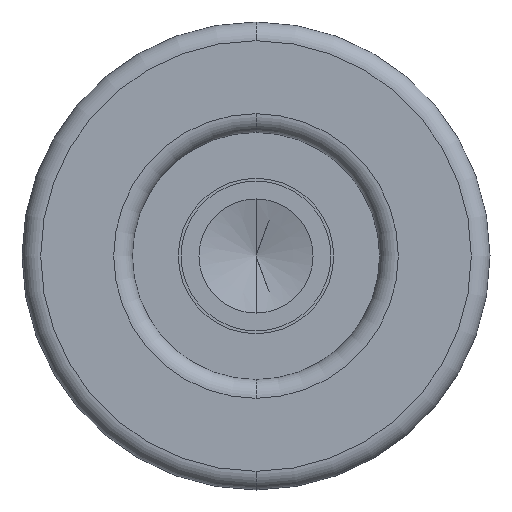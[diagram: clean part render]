
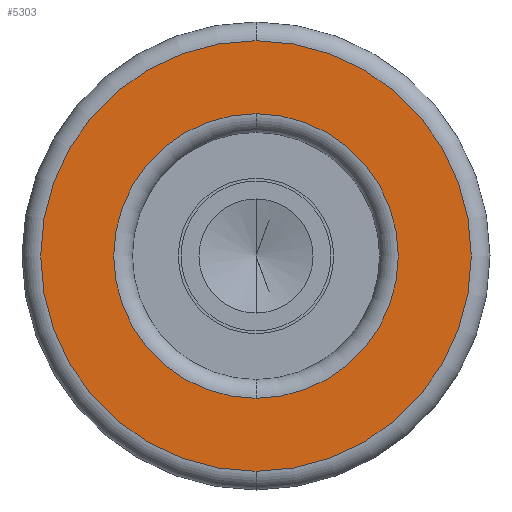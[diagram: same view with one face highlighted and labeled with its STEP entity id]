
A CAD part, front view. The second image highlights one B-rep face of the part: STEP entity #5303.
In plain terms, the highlighted planar face has unit normal (0, -1, 0).
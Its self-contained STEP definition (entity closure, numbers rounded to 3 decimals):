
#27 = VERTEX_POINT ( 'NONE', #2713 ) ;
#158 = CIRCLE ( 'NONE', #8228, 11.5 ) ;
#276 = ORIENTED_EDGE ( 'NONE', *, *, #2150, .T. ) ;
#382 = CARTESIAN_POINT ( 'NONE',  ( 0., 0., 0. ) ) ;
#446 = ORIENTED_EDGE ( 'NONE', *, *, #5463, .T. ) ;
#554 = FACE_BOUND ( 'NONE', #4596, .T. ) ;
#757 = DIRECTION ( 'NONE',  ( 0., 1., 0. ) ) ;
#1078 = VERTEX_POINT ( 'NONE', #2633 ) ;
#1342 = EDGE_CURVE ( 'NONE', #5530, #1078, #4835, .T. ) ;
#1455 = ORIENTED_EDGE ( 'NONE', *, *, #5953, .T. ) ;
#2150 = EDGE_CURVE ( 'NONE', #1078, #5530, #158, .T. ) ;
#2428 = FACE_OUTER_BOUND ( 'NONE', #6151, .T. ) ;
#2461 = CARTESIAN_POINT ( 'NONE',  ( 0., 0., 0. ) ) ;
#2538 = CARTESIAN_POINT ( 'NONE',  ( 0., 0., 11.5 ) ) ;
#2633 = CARTESIAN_POINT ( 'NONE',  ( 0., 0., -11.5 ) ) ;
#2713 = CARTESIAN_POINT ( 'NONE',  ( 0., 0., 7.6 ) ) ;
#3093 = DIRECTION ( 'NONE',  ( 0., 0., -1. ) ) ;
#3157 = DIRECTION ( 'NONE',  ( 0., 0., -1. ) ) ;
#3190 = DIRECTION ( 'NONE',  ( 0., -1., 0. ) ) ;
#4596 = EDGE_LOOP ( 'NONE', ( #1455, #446 ) ) ;
#4835 = CIRCLE ( 'NONE', #5650, 11.5 ) ;
#5003 = AXIS2_PLACEMENT_3D ( 'NONE', #8038, #757, #6078 ) ;
#5025 = DIRECTION ( 'NONE',  ( 0., 1., 0. ) ) ;
#5303 = ADVANCED_FACE ( 'NONE', ( #554, #2428 ), #7566, .T. ) ;
#5428 = ORIENTED_EDGE ( 'NONE', *, *, #1342, .T. ) ;
#5463 = EDGE_CURVE ( 'NONE', #27, #6160, #6167, .T. ) ;
#5530 = VERTEX_POINT ( 'NONE', #2538 ) ;
#5539 = DIRECTION ( 'NONE',  ( 0., 0., -1. ) ) ;
#5650 = AXIS2_PLACEMENT_3D ( 'NONE', #5798, #7828, #6476 ) ;
#5798 = CARTESIAN_POINT ( 'NONE',  ( 0., 0., 0. ) ) ;
#5953 = EDGE_CURVE ( 'NONE', #6160, #27, #5957, .T. ) ;
#5957 = CIRCLE ( 'NONE', #5003, 7.6 ) ;
#6078 = DIRECTION ( 'NONE',  ( 0., 0., -1. ) ) ;
#6151 = EDGE_LOOP ( 'NONE', ( #276, #5428 ) ) ;
#6160 = VERTEX_POINT ( 'NONE', #7105 ) ;
#6167 = CIRCLE ( 'NONE', #7064, 7.6 ) ;
#6476 = DIRECTION ( 'NONE',  ( 0., 0., -1. ) ) ;
#6896 = DIRECTION ( 'NONE',  ( 0., -1., 0. ) ) ;
#7064 = AXIS2_PLACEMENT_3D ( 'NONE', #382, #5025, #3093 ) ;
#7105 = CARTESIAN_POINT ( 'NONE',  ( 0., 0., -7.6 ) ) ;
#7533 = AXIS2_PLACEMENT_3D ( 'NONE', #8233, #6896, #5539 ) ;
#7566 = PLANE ( 'NONE',  #7533 ) ;
#7828 = DIRECTION ( 'NONE',  ( 0., -1., 0. ) ) ;
#8038 = CARTESIAN_POINT ( 'NONE',  ( 0., 0., 0. ) ) ;
#8228 = AXIS2_PLACEMENT_3D ( 'NONE', #2461, #3190, #3157 ) ;
#8233 = CARTESIAN_POINT ( 'NONE',  ( -6.6, 0., 0. ) ) ;
